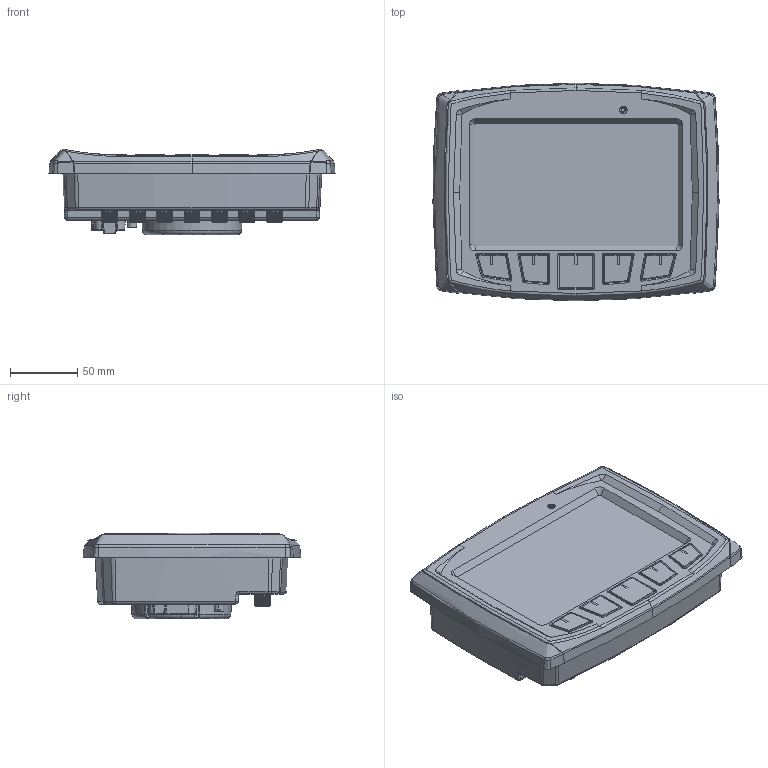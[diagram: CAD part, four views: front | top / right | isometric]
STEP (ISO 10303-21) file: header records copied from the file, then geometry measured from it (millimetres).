
FILE_DESCRIPTION (( 'STEP AP214' ), '1' );
FILE_NAME ('CL-711.STEP', '2017-03-20T21:21:33', ( '' ), ( '' ), 'SwSTEP 2.0', 'SolidWorks 2016', '' );
FILE_SCHEMA (( 'AUTOMOTIVE_DESIGN' ));
Length unit declared in the file: inch
Products named in the file (1): CL-711
Bounding box: 212.92 x 161.93 x 63.43 mm (x, y, z)
Volume: 1129780.2 mm3; surface area: 311046.7 mm2
Topology: 7 solids, 8 shells, 2122 faces, 5293 edges, 3242 vertices
Faces by surface type: plane 520, cylinder 475, bspline 401, torus 348, cone 310, sphere 68
Entity records: 98736 total; most frequent: CARTESIAN_POINT 51278, ORIENTED_EDGE 10538, DIRECTION 9314, EDGE_CURVE 5269, AXIS2_PLACEMENT_3D 3754, VERTEX_POINT 3238, EDGE_LOOP 2227, ADVANCED_FACE 2126
